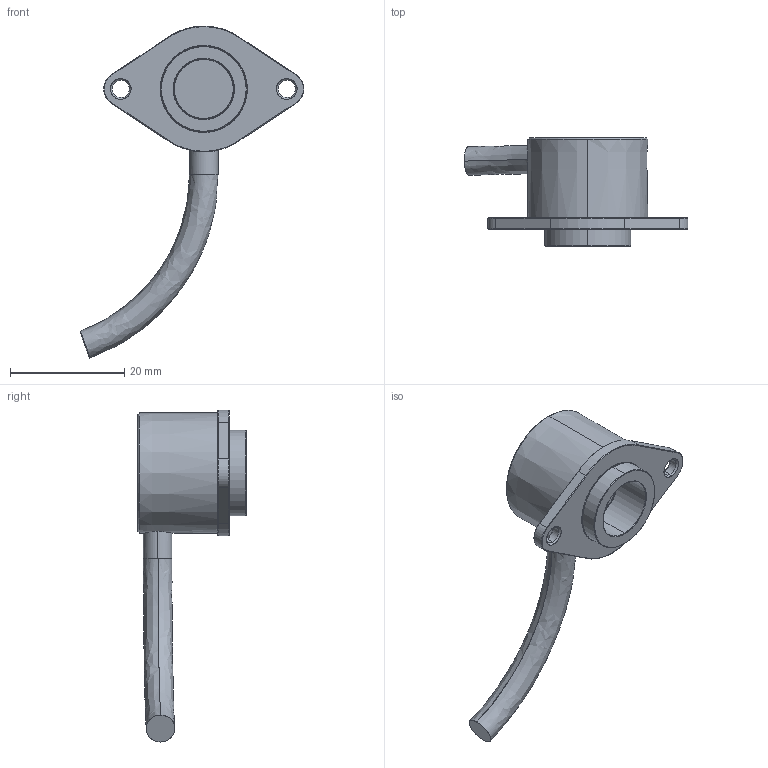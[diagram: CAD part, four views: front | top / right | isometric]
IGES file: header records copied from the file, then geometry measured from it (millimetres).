
Start section: SolidWorks IGES FILE using analytic representation for surfaces
Global section: file name: E:\MOJIDOK2006\projekti2006\3D-RE-RM-izdelki\RM22-3D.IGS; native system: SolidWorks 99 by SolidWorks Corporation; preprocessor: Version 3.0; author: cerar; date: 1060905.150133; units: millimetre
Bounding box: 39.11 x 19 x 58 mm (x, y, z)
Surface area: 3115.5 mm2 (no closed solid volume)
Topology: 0 solids, 0 shells, 64 faces, 725 edges, 725 vertices
Faces by surface type: revolution 41, bspline 23
